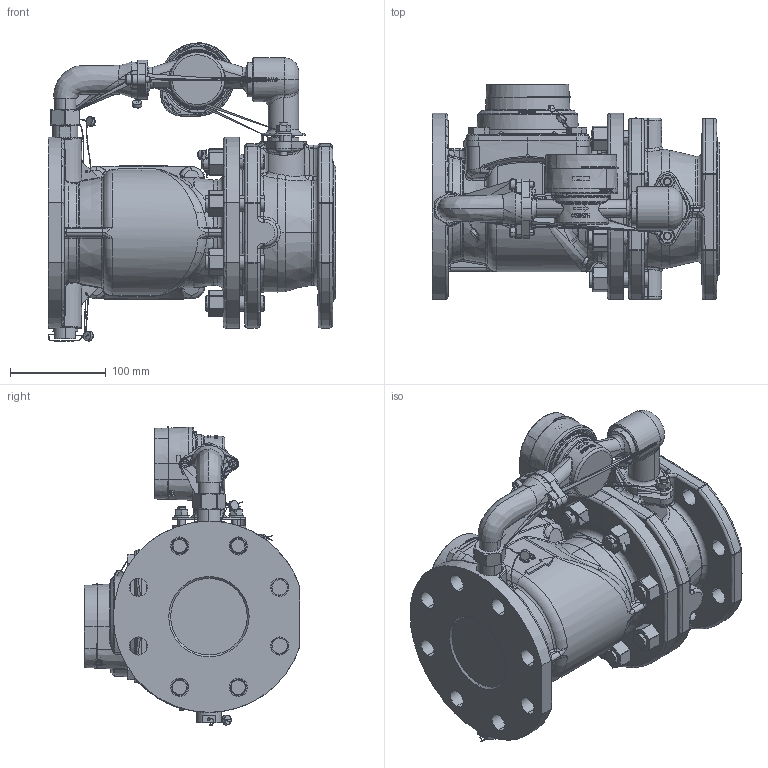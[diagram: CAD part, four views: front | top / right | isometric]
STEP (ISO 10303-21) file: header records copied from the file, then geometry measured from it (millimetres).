
FILE_DESCRIPTION (( 'STEP AP214' ), '1' );
FILE_NAME ('MWN_JS_80_4 IP68.STEP', '2025-08-05T11:17:36', ( '' ), ( '' ), 'SwSTEP 2.0', 'SolidWorks 2019', '' );
FILE_SCHEMA (( 'AUTOMOTIVE_DESIGN' ));
Length unit declared in the file: millimetre
Products named in the file (1): MWN_JS_80_4 IP68
Bounding box: 301 x 225.43 x 312.51 mm (x, y, z)
Volume: 5752735.7 mm3; surface area: 620637.1 mm2
Topology: 59 solids, 95 shells, 5519 faces, 13863 edges, 8528 vertices
Faces by surface type: plane 1802, cylinder 1270, bspline 1114, cone 686, torus 404, sphere 243
Full cylindrical faces by diameter (mm): 47.4 x1
Entity records: 290636 total; most frequent: CARTESIAN_POINT 109191, ORIENTED_EDGE 27188, DIRECTION 22679, EDGE_CURVE 13594, AXIS2_PLACEMENT_3D 8834, VERTEX_POINT 8459, EDGE_LOOP 5945, ADVANCED_FACE 5518
